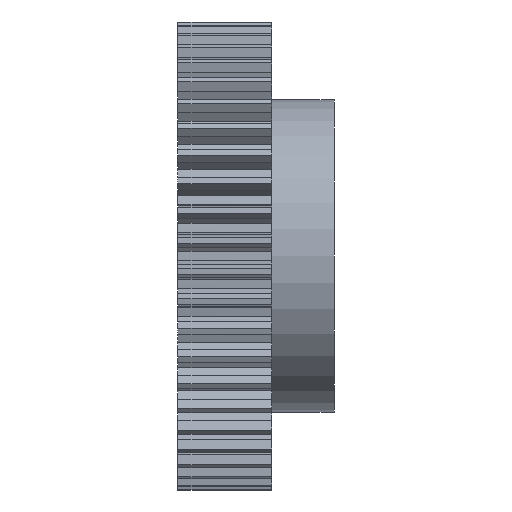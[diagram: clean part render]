
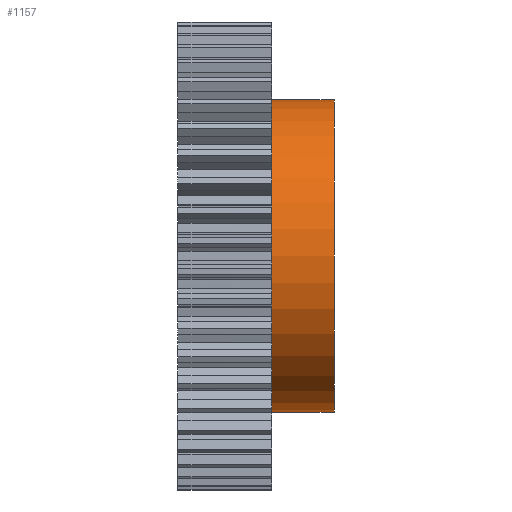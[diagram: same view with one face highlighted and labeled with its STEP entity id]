
A CAD part, front view. The second image highlights one B-rep face of the part: STEP entity #1157.
In plain terms, the highlighted cylindrical face has radius 50 mm (diameter 100 mm), a partial arc.
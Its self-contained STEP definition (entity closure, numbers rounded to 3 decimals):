
#25 = EDGE_CURVE ( 'NONE', #6868, #6865, #6958, .T. ) ;
#1150 = ORIENTED_EDGE ( 'NONE', *, *, #25, .T. ) ;
#1157 = ADVANCED_FACE ( 'NONE', ( #8761 ), #8768, .T. ) ;
#2012 = EDGE_LOOP ( 'NONE', ( #2093, #2131, #1150, #2132 ) ) ;
#2093 = ORIENTED_EDGE ( 'NONE', *, *, #6870, .F. ) ;
#2131 = ORIENTED_EDGE ( 'NONE', *, *, #6179, .T. ) ;
#2132 = ORIENTED_EDGE ( 'NONE', *, *, #6274, .T. ) ;
#3526 = DIRECTION ( 'NONE',  ( 0., 0., 1. ) ) ;
#3527 = AXIS2_PLACEMENT_3D ( 'NONE', #3534, #3544, #3526 ) ;
#3534 = CARTESIAN_POINT ( 'NONE',  ( 35., 0., 0. ) ) ;
#3542 = CIRCLE ( 'NONE', #3527, 50. ) ;
#3544 = DIRECTION ( 'NONE',  ( -1., 0., 0. ) ) ;
#3662 = CIRCLE ( 'NONE', #3714, 50. ) ;
#3670 = CARTESIAN_POINT ( 'NONE',  ( 15., 0., 0. ) ) ;
#3712 = DIRECTION ( 'NONE',  ( 0., 0., 1. ) ) ;
#3713 = DIRECTION ( 'NONE',  ( 1., 0., 0. ) ) ;
#3714 = AXIS2_PLACEMENT_3D ( 'NONE', #3670, #3713, #3712 ) ;
#4683 = CARTESIAN_POINT ( 'NONE',  ( 15., 0., 50. ) ) ;
#4721 = DIRECTION ( 'NONE',  ( -1., 0., 0. ) ) ;
#4722 = VECTOR ( 'NONE', #4721, 1000. ) ;
#4723 = CARTESIAN_POINT ( 'NONE',  ( 15., 0., -50. ) ) ;
#4726 = LINE ( 'NONE', #4723, #4722 ) ;
#4733 = CARTESIAN_POINT ( 'NONE',  ( 35., 0., -50. ) ) ;
#4734 = CARTESIAN_POINT ( 'NONE',  ( 15., 0., -50. ) ) ;
#4735 = CARTESIAN_POINT ( 'NONE',  ( 35., 0., 50. ) ) ;
#6179 = EDGE_CURVE ( 'NONE', #6869, #6868, #3542, .T. ) ;
#6274 = EDGE_CURVE ( 'NONE', #6865, #6872, #3662, .T. ) ;
#6865 = VERTEX_POINT ( 'NONE', #4683 ) ;
#6868 = VERTEX_POINT ( 'NONE', #4735 ) ;
#6869 = VERTEX_POINT ( 'NONE', #4733 ) ;
#6870 = EDGE_CURVE ( 'NONE', #6869, #6872, #4726, .T. ) ;
#6872 = VERTEX_POINT ( 'NONE', #4734 ) ;
#6950 = DIRECTION ( 'NONE',  ( -1., 0., 0. ) ) ;
#6951 = VECTOR ( 'NONE', #6950, 1000. ) ;
#6957 = CARTESIAN_POINT ( 'NONE',  ( 15., 0., 50. ) ) ;
#6958 = LINE ( 'NONE', #6957, #6951 ) ;
#8756 = CARTESIAN_POINT ( 'NONE',  ( 15., 0., 0. ) ) ;
#8761 = FACE_OUTER_BOUND ( 'NONE', #2012, .T. ) ;
#8763 = DIRECTION ( 'NONE',  ( 0., 0., 1. ) ) ;
#8764 = DIRECTION ( 'NONE',  ( -1., 0., 0. ) ) ;
#8768 = CYLINDRICAL_SURFACE ( 'NONE', #8771, 50. ) ;
#8771 = AXIS2_PLACEMENT_3D ( 'NONE', #8756, #8764, #8763 ) ;
